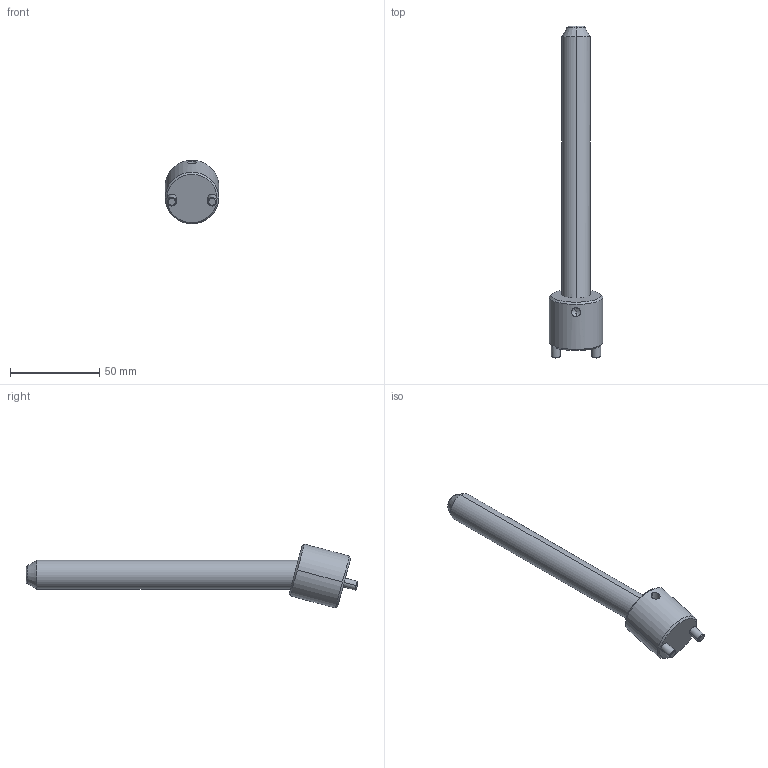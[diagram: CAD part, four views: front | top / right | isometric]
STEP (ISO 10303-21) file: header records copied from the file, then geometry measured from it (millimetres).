
FILE_DESCRIPTION(('CATIA V5 STEP Exchange'),'2;1');
FILE_NAME('C:\Users\Raffaele\Desktop\3D BOLEX\3D FILES CF BOLEX\19-INCLINED ASSEMBLY REF_CI\CI1516150.stp','2019-06-21T14:14:18+00:00',('none'),('none'),'CATIA Version 5 Release 20 GA (IN-10)','CATIA V5 STEP AP203','none');
FILE_SCHEMA(('CONFIG_CONTROL_DESIGN'));
Length unit declared in the file: millimetre
Products named in the file (1): CI1516150
Assembly tree (2 placements, depth 2):
  CI1516150
    #58
    #587
Bounding box: 30 x 185.58 x 35.71 mm (x, y, z)
Volume: 49409.2 mm3; surface area: 14475.6 mm2
Topology: 2 solids, 2 shells, 39 faces, 82 edges, 47 vertices
Faces by surface type: cone 14, cylinder 14, plane 7, torus 4
Entity records: 1479 total; most frequent: CARTESIAN_POINT 620, ORIENTED_EDGE 160, DIRECTION 145, EDGE_CURVE 80, AXIS2_PLACEMENT_3D 72, VERTEX_POINT 47, EDGE_LOOP 43, ADVANCED_FACE 39
